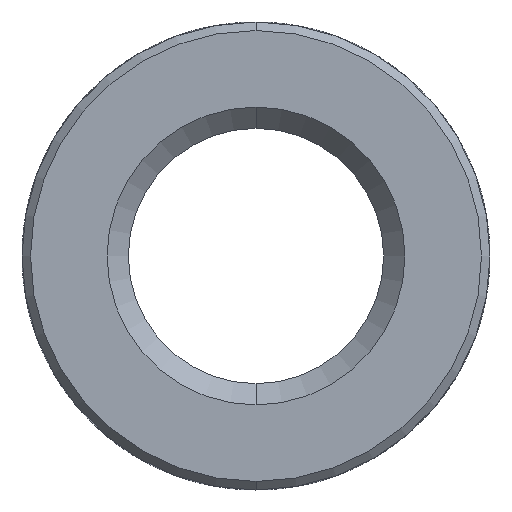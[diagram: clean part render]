
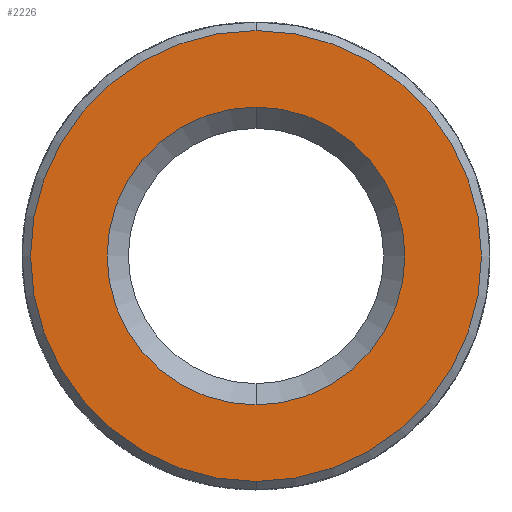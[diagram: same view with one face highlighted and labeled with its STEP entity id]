
A CAD part, front view. The second image highlights one B-rep face of the part: STEP entity #2226.
In plain terms, the highlighted planar face has unit normal (0, -1, 0).
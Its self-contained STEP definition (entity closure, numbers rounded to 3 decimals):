
#98 = EDGE_CURVE ( 'NONE', #402, #2943, #583, .T. ) ;
#297 = EDGE_LOOP ( 'NONE', ( #429, #3862 ) ) ;
#402 = VERTEX_POINT ( 'NONE', #657 ) ;
#414 = CARTESIAN_POINT ( 'NONE',  ( 0., -4.5, 0. ) ) ;
#429 = ORIENTED_EDGE ( 'NONE', *, *, #98, .T. ) ;
#583 = CIRCLE ( 'NONE', #1489, 1.75 ) ;
#657 = CARTESIAN_POINT ( 'NONE',  ( 0., -4.5, -1.75 ) ) ;
#910 = CARTESIAN_POINT ( 'NONE',  ( 0., -4.5, 2.65 ) ) ;
#1124 = AXIS2_PLACEMENT_3D ( 'NONE', #2112, #1160, #3031 ) ;
#1147 = PLANE ( 'NONE',  #1124 ) ;
#1160 = DIRECTION ( 'NONE',  ( 0., -1., 0. ) ) ;
#1219 = DIRECTION ( 'NONE',  ( 0., 1., 0. ) ) ;
#1314 = AXIS2_PLACEMENT_3D ( 'NONE', #2262, #2874, #3176 ) ;
#1320 = AXIS2_PLACEMENT_3D ( 'NONE', #1812, #1219, #3953 ) ;
#1386 = FACE_BOUND ( 'NONE', #297, .T. ) ;
#1403 = CIRCLE ( 'NONE', #1314, 2.65 ) ;
#1414 = ORIENTED_EDGE ( 'NONE', *, *, #1776, .T. ) ;
#1489 = AXIS2_PLACEMENT_3D ( 'NONE', #2059, #2368, #2656 ) ;
#1497 = CARTESIAN_POINT ( 'NONE',  ( 0., -4.5, 1.75 ) ) ;
#1566 = CIRCLE ( 'NONE', #3567, 2.65 ) ;
#1575 = EDGE_LOOP ( 'NONE', ( #1414, #2417 ) ) ;
#1776 = EDGE_CURVE ( 'NONE', #2501, #3930, #1566, .T. ) ;
#1812 = CARTESIAN_POINT ( 'NONE',  ( 0., -4.5, 0. ) ) ;
#2059 = CARTESIAN_POINT ( 'NONE',  ( 0., -4.5, 0. ) ) ;
#2112 = CARTESIAN_POINT ( 'NONE',  ( 0., -4.5, 2.75 ) ) ;
#2226 = ADVANCED_FACE ( 'NONE', ( #3573, #1386 ), #1147, .T. ) ;
#2262 = CARTESIAN_POINT ( 'NONE',  ( 0., -4.5, 0. ) ) ;
#2368 = DIRECTION ( 'NONE',  ( 0., 1., 0. ) ) ;
#2417 = ORIENTED_EDGE ( 'NONE', *, *, #3424, .T. ) ;
#2501 = VERTEX_POINT ( 'NONE', #910 ) ;
#2619 = DIRECTION ( 'NONE',  ( 0., 0., -1. ) ) ;
#2627 = CIRCLE ( 'NONE', #1320, 1.75 ) ;
#2631 = DIRECTION ( 'NONE',  ( 0., -1., 0. ) ) ;
#2656 = DIRECTION ( 'NONE',  ( 0., 0., -1. ) ) ;
#2874 = DIRECTION ( 'NONE',  ( 0., -1., 0. ) ) ;
#2943 = VERTEX_POINT ( 'NONE', #1497 ) ;
#3031 = DIRECTION ( 'NONE',  ( 0., 0., -1. ) ) ;
#3058 = CARTESIAN_POINT ( 'NONE',  ( 0., -4.5, -2.65 ) ) ;
#3176 = DIRECTION ( 'NONE',  ( 0., 0., -1. ) ) ;
#3424 = EDGE_CURVE ( 'NONE', #3930, #2501, #1403, .T. ) ;
#3567 = AXIS2_PLACEMENT_3D ( 'NONE', #414, #2631, #2619 ) ;
#3573 = FACE_OUTER_BOUND ( 'NONE', #1575, .T. ) ;
#3862 = ORIENTED_EDGE ( 'NONE', *, *, #3879, .T. ) ;
#3879 = EDGE_CURVE ( 'NONE', #2943, #402, #2627, .T. ) ;
#3930 = VERTEX_POINT ( 'NONE', #3058 ) ;
#3953 = DIRECTION ( 'NONE',  ( 0., 0., -1. ) ) ;
